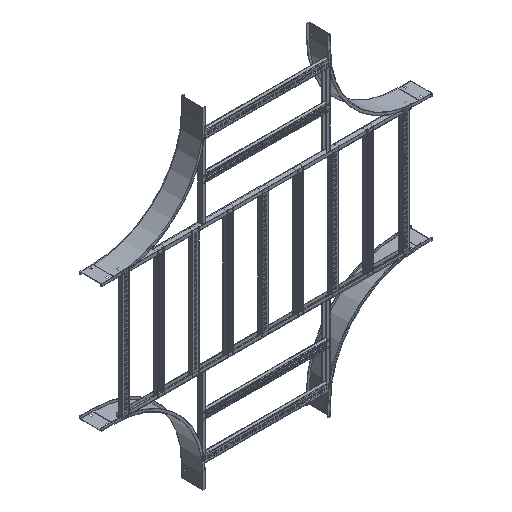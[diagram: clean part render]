
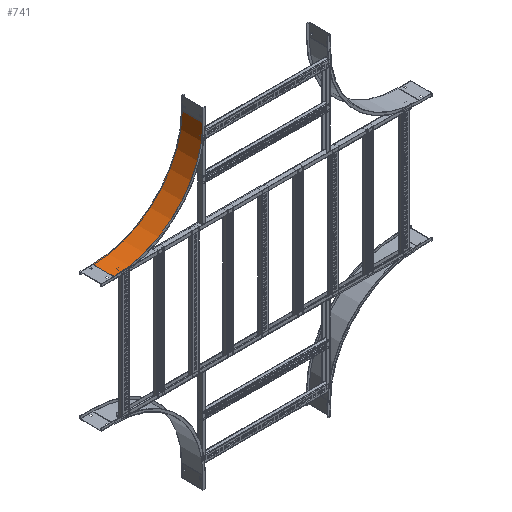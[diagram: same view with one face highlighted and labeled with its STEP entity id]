
A CAD part, isometric view. The second image highlights one B-rep face of the part: STEP entity #741.
In plain terms, the highlighted cylindrical face has radius 533.4 mm (diameter 1066.8 mm), a partial arc.
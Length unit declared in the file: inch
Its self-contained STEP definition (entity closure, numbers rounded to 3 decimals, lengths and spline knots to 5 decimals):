
#156=CARTESIAN_POINT('',(0.,-21.,3.));
#157=DIRECTION('',(1.,0.,0.));
#158=DIRECTION('',(0.,1.,0.));
#159=AXIS2_PLACEMENT_3D('',#156,#157,#158);
#165=DIRECTION('',(1.,0.,0.));
#166=VECTOR('',#165,5.08);
#167=CARTESIAN_POINT('',(-5.08,0.,3.));
#168=LINE('',#167,#166);
#169=CARTESIAN_POINT('',(-5.08,-21.,3.));
#170=DIRECTION('',(1.,0.,0.));
#171=DIRECTION('',(0.,1.,0.));
#172=AXIS2_PLACEMENT_3D('',#169,#170,#171);
#174=DIRECTION('',(1.,0.,0.));
#175=VECTOR('',#174,5.08);
#176=CARTESIAN_POINT('',(-5.08,-21.,24.));
#177=LINE('',#176,#175);
#409=CARTESIAN_POINT('',(-5.08,0.,3.));
#410=CARTESIAN_POINT('',(0.,0.,3.));
#411=VERTEX_POINT('',#409);
#412=VERTEX_POINT('',#410);
#425=CARTESIAN_POINT('',(-5.08,-21.,24.));
#426=CARTESIAN_POINT('',(0.,-21.,24.));
#427=VERTEX_POINT('',#425);
#428=VERTEX_POINT('',#426);
#729=CARTESIAN_POINT('',(-1.,-21.,3.));
#730=DIRECTION('',(1.,0.,0.));
#731=DIRECTION('',(0.,-1.,0.));
#732=AXIS2_PLACEMENT_3D('',#729,#730,#731);
#733=CYLINDRICAL_SURFACE('',#732,21.);
#734=ORIENTED_EDGE('',*,*,#553,.F.);
#735=ORIENTED_EDGE('',*,*,#596,.T.);
#737=ORIENTED_EDGE('',*,*,#736,.T.);
#738=ORIENTED_EDGE('',*,*,#715,.F.);
#739=EDGE_LOOP('',(#734,#735,#737,#738));
#740=FACE_OUTER_BOUND('',#739,.F.);
#741=ADVANCED_FACE('',(#740),#733,.F.);
#160=CIRCLE('',#159,21.);
#173=CIRCLE('',#172,21.);
#553=EDGE_CURVE('',#411,#412,#168,.T.);
#596=EDGE_CURVE('',#411,#427,#173,.T.);
#715=EDGE_CURVE('',#412,#428,#160,.T.);
#736=EDGE_CURVE('',#427,#428,#177,.T.);
